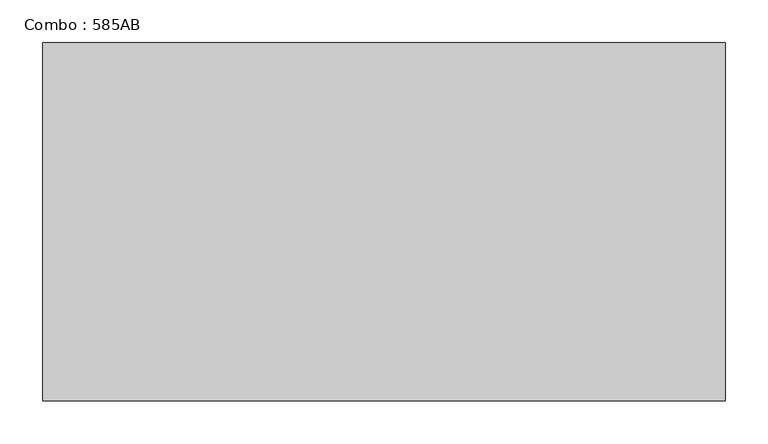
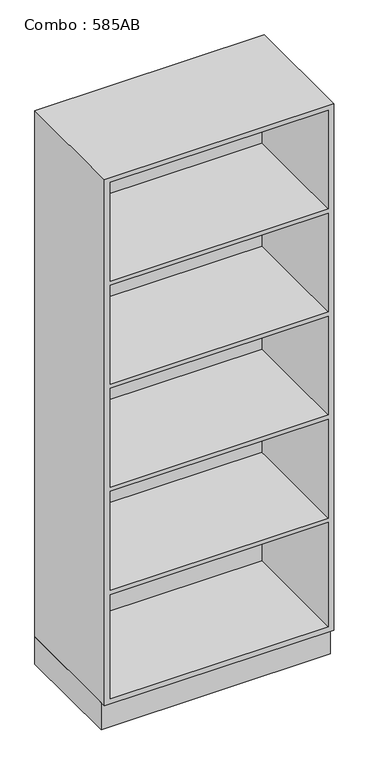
"""IFC4 building model written with IfcOpenShell, lengths in millimetres: furniture geometry, Combo : 585AB."""

import ifcopenshell
import ifcopenshell.guid

model = None  # the IFC model being written
_history = None  # IfcOwnerHistory: only IFC2X3 demands one
_inside = {}  # id of a spatial element -> (the spatial element, [elements in it])
_under = {}  # id of a project, library or spatial element -> (it, [spatial elements below it])
_declared = {}  # id of a project -> (the project, [libraries it declares])
_typed = {}  # id of a type object -> (the type object, [elements of that type])
_made_of = {}  # id of a material, layer set ... -> (it, [elements and type objects made of it])


def new_model(schema):
    """Start an empty IFC model of exactly this schema.

    Asked for "IFC4X3", IfcOpenShell would pick the latest addendum, in which some entities
    have other attributes; the version numbers below select the first issue.
    IFC2X3 requires an IfcOwnerHistory on every rooted entity: one is made here for all.
    """
    global model, _history
    if schema == "IFC4X3":
        model = ifcopenshell.file(schema_version=(4, 3, 0, 0))
    else:
        model = ifcopenshell.file(schema=schema)
    _inside.clear()
    _under.clear()
    _declared.clear()
    _typed.clear()
    _made_of.clear()
    _history = None
    if model.schema == "IFC2X3":
        org = make("IfcOrganization", Name="unknown")
        user = make(
            "IfcPersonAndOrganization",
            ThePerson=make("IfcPerson", FamilyName="unknown"),
            TheOrganization=org,
        )
        app = make(
            "IfcApplication",
            ApplicationDeveloper=org,
            Version="unknown",
            ApplicationFullName="unknown",
            ApplicationIdentifier="unknown",
        )
        _history = make(
            "IfcOwnerHistory",
            OwningUser=user,
            OwningApplication=app,
            ChangeAction="ADDED",
            CreationDate=0,
        )
    return model


def make(cls, **values):
    """One entity of the class cls with the attributes given. An attribute that is None is left unset."""
    return model.create_entity(
        cls, **{name: value for name, value in values.items() if value is not None}
    )


def rooted(cls, **values):
    """An entity with a GlobalId (a new one), such as an element, a storey or a relation."""
    return make(cls, GlobalId=ifcopenshell.guid.new(), OwnerHistory=_history, **values)


def si_unit(unit_type, name, prefix=None):
    """IfcSIUnit, for example si_unit("LENGTHUNIT", "METRE", prefix="MILLI")."""
    return make("IfcSIUnit", UnitType=unit_type, Prefix=prefix, Name=name)


def assignment(units):
    """IfcUnitAssignment: the units of a project."""
    return None if units is None else make("IfcUnitAssignment", Units=units)


def point(xyz):
    """IfcCartesianPoint."""
    return None if xyz is None else make("IfcCartesianPoint", Coordinates=xyz)


def direction(xyz):
    """IfcDirection."""
    return None if xyz is None else make("IfcDirection", DirectionRatios=xyz)


def frame(location, z_axis=None, x_axis=None):
    """IfcAxis2Placement3D, a coordinate frame: its origin and axes. An axis left out is left unset."""
    return make(
        "IfcAxis2Placement3D",
        Location=point(location),
        Axis=direction(z_axis),
        RefDirection=direction(x_axis),
    )


def origin():
    """The frame at (0, 0, 0) with its axes left unset."""
    return frame((0.0, 0.0, 0.0))


def origin_with_axes():
    """The frame at (0, 0, 0) with the z axis (0, 0, 1) and the x axis (1, 0, 0) written out."""
    return frame((0.0, 0.0, 0.0), z_axis=(0.0, 0.0, 1.0), x_axis=(1.0, 0.0, 0.0))


def place(relative_to, where):
    """IfcLocalPlacement: puts the frame where relative to a parent placement (None: the world)."""
    return make(
        "IfcLocalPlacement", PlacementRelTo=relative_to, RelativePlacement=where
    )


def context(
    kind, dimensions, precision=None, world=None, true_north=None, identifier=None
):
    """IfcGeometricRepresentationContext, for example the 3D "Model" context."""
    return make(
        "IfcGeometricRepresentationContext",
        ContextIdentifier=identifier,
        ContextType=kind,
        CoordinateSpaceDimension=dimensions,
        Precision=precision,
        WorldCoordinateSystem=world,
        TrueNorth=true_north,
    )


def project(units=None, contexts=None):
    """IfcProject with its units and contexts."""
    return rooted(
        "IfcProject",
        Name="project",
        RepresentationContexts=contexts,
        UnitsInContext=assignment(units),
    )


def spatial(cls, under=None, at=None, **own):
    """A site, building, storey or space (cls), placed at a placement, below another one or the project."""
    s = rooted(cls, ObjectPlacement=at, **own)
    if under is not None:
        _under.setdefault(under.id(), (under, []))[1].append(s)
    return s


def polyline(points):
    """IfcPolyline through the points."""
    return make("IfcPolyline", Points=[point(p) for p in points])


def outline(outer, holes=None, kind="AREA"):
    """IfcArbitraryClosedProfileDef: a profile drawn as a closed curve; with holes, ...WithVoids."""
    if holes is None:
        return make("IfcArbitraryClosedProfileDef", ProfileType=kind, OuterCurve=outer)
    return make(
        "IfcArbitraryProfileDefWithVoids",
        ProfileType=kind,
        OuterCurve=outer,
        InnerCurves=holes,
    )


def extrude(swept, where, along, depth):
    """IfcExtrudedAreaSolid: the profile swept, set in the frame where, extruded along a direction by depth."""
    return make(
        "IfcExtrudedAreaSolid",
        SweptArea=swept,
        Position=where,
        ExtrudedDirection=direction(along),
        Depth=depth,
    )


def faces_of(points, faces, orient=None, outer=None):
    """IfcFace entities. A face is a list of loops; a loop is a list of indices into points, from 0.

    orient and outer hold one flag for each loop. By default every Orientation is true, the
    first loop of a face is its IfcFaceOuterBound and the others are IfcFaceBound.
    """
    made = []
    for i, loops in enumerate(faces):
        bounds = []
        for j, loop in enumerate(loops):
            is_outer = j == 0 if outer is None else outer[i][j]
            bounds.append(
                make(
                    "IfcFaceOuterBound" if is_outer else "IfcFaceBound",
                    Bound=make("IfcPolyLoop", Polygon=[points[k] for k in loop]),
                    Orientation=True if orient is None else orient[i][j],
                )
            )
        made.append(make("IfcFace", Bounds=bounds))
    return made


def faceted_brep(points, faces, orient=None, outer=None, voids=None):
    """IfcFacetedBrep: a solid bounded by flat faces; with voids (closed shells), ...WithVoids."""
    shared = [point(p) for p in points]
    hull = make("IfcClosedShell", CfsFaces=faces_of(shared, faces, orient, outer))
    if voids is None:
        return make("IfcFacetedBrep", Outer=hull)
    return make(
        "IfcFacetedBrepWithVoids",
        Outer=hull,
        Voids=[
            make(cls, CfsFaces=faces_of(shared, fs, o, b)) for cls, fs, o, b in voids
        ],
    )


def shape(context_of_items, identifier, shape_type, items):
    """IfcShapeRepresentation: the items that make up one representation, for example the "Body"."""
    return make(
        "IfcShapeRepresentation",
        ContextOfItems=context_of_items,
        RepresentationIdentifier=identifier,
        RepresentationType=shape_type,
        Items=items,
    )


def source(mapping_origin, context_of_items, identifier, shape_type, items):
    """IfcRepresentationMap: a shape defined once, which mapped items show again and again."""
    return make(
        "IfcRepresentationMap",
        MappingOrigin=mapping_origin,
        MappedRepresentation=shape(context_of_items, identifier, shape_type, items),
    )


def transform(
    local_origin,
    x_axis=None,
    y_axis=None,
    z_axis=None,
    scale=None,
    scale2=None,
    scale3=None,
    uniform=True,
):
    """IfcCartesianTransformationOperator3D, or its non-uniform kind. x_axis, y_axis, z_axis: its Axis1, 2, 3."""
    if uniform:
        return make(
            "IfcCartesianTransformationOperator3D",
            Axis1=direction(x_axis),
            Axis2=direction(y_axis),
            LocalOrigin=point(local_origin),
            Scale=scale,
            Axis3=direction(z_axis),
        )
    return make(
        "IfcCartesianTransformationOperator3DnonUniform",
        Axis1=direction(x_axis),
        Axis2=direction(y_axis),
        LocalOrigin=point(local_origin),
        Scale=scale,
        Axis3=direction(z_axis),
        Scale2=scale2,
        Scale3=scale3,
    )


def mapped(mapping_source, mapping_target):
    """IfcMappedItem: shows the shape of a source again, moved by a transform."""
    return make(
        "IfcMappedItem", MappingSource=mapping_source, MappingTarget=mapping_target
    )


def made_of(thing, what):
    """Note that an element or type object is made of a material, layer set ...; save() writes the relation."""
    if what is not None:
        _made_of.setdefault(what.id(), (what, []))[1].append(thing)
    return thing


def element(
    cls,
    number,
    at=None,
    inside=None,
    cuts=None,
    type_object=None,
    material=None,
    context=None,
    identifier="Body",
    shape_type=None,
    held_by="IfcProductDefinitionShape",
    body=None,
    shapes=None,
    **own,
):
    """One element of the class cls, such as IfcWall. Its Tag is "e" and its number.

    at: its placement. inside: the storey or other place that contains it. cuts: it is an
    opening in that element (IfcRelVoidsElement). A single representation is given by context,
    identifier, shape_type and body (its items); several are given by shapes. held_by: the class
    of the entity that holds the representations. save() writes the other relations.
    """
    e = rooted(cls, Tag="e%d" % number, ObjectPlacement=at, **own)
    if body is not None:
        shapes = [shape(context, identifier, shape_type, body)]
    if shapes is not None:
        e.Representation = make(held_by, Representations=shapes)
    if inside is not None:
        _inside.setdefault(inside.id(), (inside, []))[1].append(e)
    if cuts is not None:
        rooted(
            "IfcRelVoidsElement", RelatingBuildingElement=cuts, RelatedOpeningElement=e
        )
    if type_object is not None:
        _typed.setdefault(type_object.id(), (type_object, []))[1].append(e)
    return made_of(e, material)


def aggregate(whole, parts):
    """IfcRelAggregates: a whole, such as a stair, and the parts it consists of."""
    return rooted("IfcRelAggregates", RelatingObject=whole, RelatedObjects=parts)


def save(model, path):
    """Write the relations noted so far, then the file.

    IfcRelAggregates (storeys below a building ...), IfcRelContainedInSpatialStructure (elements
    in a storey), IfcRelDefinesByType, IfcRelAssociatesMaterial and IfcRelDeclares: one each for
    every whole, place, type object, material and project.
    """
    for whole, parts in _under.values():
        aggregate(whole, parts)
    for where, things in _inside.values():
        rooted(
            "IfcRelContainedInSpatialStructure",
            RelatedElements=things,
            RelatingStructure=where,
        )
    for kind, things in _typed.values():
        rooted("IfcRelDefinesByType", RelatedObjects=things, RelatingType=kind)
    for what, things in _made_of.values():
        rooted("IfcRelAssociatesMaterial", RelatedObjects=things, RelatingMaterial=what)
    for by, libraries in _declared.values():
        rooted("IfcRelDeclares", RelatingContext=by, RelatedDefinitions=libraries)
    model.write(path)


def combo_585ab_34b19a80(model_context):
    return source(origin(), model_context, "Body", "SolidModel", [
        extrude(outline(polyline([(-400.0, -400.0), (-400.0, 0.0), (400.0, 0.0), (400.0, -400.0), (-400.0, -400.0)])), origin_with_axes(), (0.0, 0.0, 1.0), 100.0),
        faceted_brep([(400.0, 0.0, 2040.0), (-400.0, 0.0, 2040.0), (-400.0, -420.0, 2040.0), (400.0, -420.0, 2040.0), (-400.0, 0.0, 100.0), (400.0, 0.0, 100.0), (400.0, -420.0, 100.0), (-400.0, -420.0, 100.0), (380.0, -420.0, 504.0), (380.0, -420.0, 120.0), (-380.0, -420.0, 120.0), (-380.0, -420.0, 504.0), (380.0, -420.0, 884.0), (380.0, -420.0, 520.0), (-380.0, -420.0, 520.0), (-380.0, -420.0, 884.0), (380.0, -420.0, 1264.0), (380.0, -420.0, 900.0), (-380.0, -420.0, 900.0), (-380.0, -420.0, 1264.0), (-380.0, -420.0, 1644.0), (380.0, -420.0, 1644.0), (380.0, -420.0, 1280.0), (-380.0, -420.0, 1280.0), (380.0, -420.0, 2024.0), (380.0, -420.0, 1660.0), (-380.0, -420.0, 1660.0), (-380.0, -420.0, 2024.0), (380.0, -20.0, 120.0), (380.0, -20.0, 504.0), (-380.0, -20.0, 504.0), (-380.0, -20.0, 120.0), (380.0, -20.0, 520.0), (380.0, -20.0, 884.0), (-380.0, -20.0, 884.0), (-380.0, -20.0, 520.0), (380.0, -20.0, 900.0), (380.0, -20.0, 1264.0), (-380.0, -20.0, 1264.0), (-380.0, -20.0, 900.0), (380.0, -20.0, 1280.0), (380.0, -20.0, 1644.0), (-380.0, -20.0, 1644.0), (-380.0, -20.0, 1280.0), (380.0, -20.0, 1660.0), (380.0, -20.0, 2024.0), (-380.0, -20.0, 2024.0), (-380.0, -20.0, 1660.0)], [[[0, 1, 2, 3]], [[4, 5, 6, 7]], [[1, 0, 5, 4]], [[2, 1, 4, 7]], [[3, 2, 7, 6], [8, 9, 10, 11], [12, 13, 14, 15], [16, 17, 18, 19], [20, 21, 22, 23], [24, 25, 26, 27]], [[0, 3, 6, 5]], [[28, 29, 30, 31]], [[29, 28, 9, 8]], [[30, 29, 8, 11]], [[31, 30, 11, 10]], [[28, 31, 10, 9]], [[32, 33, 34, 35]], [[33, 32, 13, 12]], [[34, 33, 12, 15]], [[35, 34, 15, 14]], [[32, 35, 14, 13]], [[36, 37, 38, 39]], [[37, 36, 17, 16]], [[38, 37, 16, 19]], [[39, 38, 19, 18]], [[36, 39, 18, 17]], [[40, 41, 42, 43]], [[42, 41, 21, 20]], [[44, 45, 46, 47]], [[41, 40, 22, 21]], [[43, 42, 20, 23]], [[45, 44, 25, 24]], [[47, 46, 27, 26]], [[40, 43, 23, 22]], [[46, 45, 24, 27]], [[44, 47, 26, 25]]]),
    ])


if __name__ == "__main__":
    model = new_model("IFC4")
    model_context = context("Model", 3, world=origin())
    ifc_project = project(units=[si_unit("LENGTHUNIT", "METRE", prefix="MILLI")], contexts=[model_context])
    site = spatial("IfcSite", under=ifc_project)
    building = spatial("IfcBuilding", under=site)
    placement = place(None, origin())
    combo_585ab_shape = combo_585ab_34b19a80(model_context)
    element("IfcFurniture", 1, ObjectType="Combo : 585AB", at=placement, inside=building, context=model_context, shape_type="MappedRepresentation", body=[
        mapped(combo_585ab_shape, transform((0.0, 0.0, 0.0), x_axis=(1.0, 0.0, 0.0), y_axis=(0.0, 1.0, 0.0), z_axis=(0.0, 0.0, 1.0))),
    ])
    save(model, "model.ifc")
